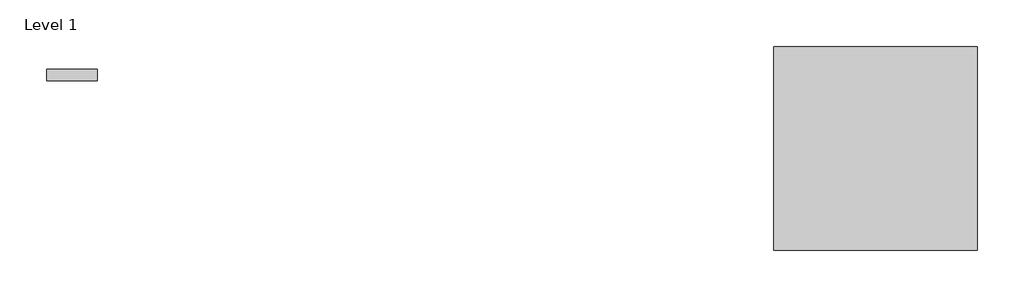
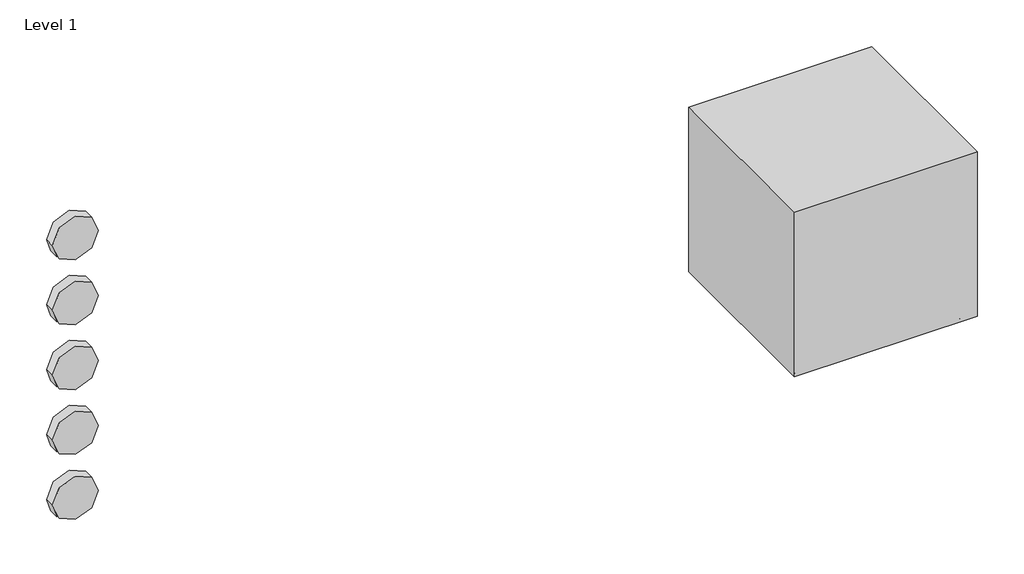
# One storey: 5 proxies, 1 furniture element.
"""IFC4 building model written with IfcOpenShell, lengths in millimetres."""

from ifc_helpers import new_model, si_unit, origin, place, context, project, spatial, transform, mapped, element, save
from components import materialmodel_materialmodel_aa49be07, furniture_fcb89289

model = new_model("IFC4")

# Units and contexts
model_context = context("Model", 3, world=origin())
ifc_project = project(units=[si_unit("LENGTHUNIT", "METRE", prefix="MILLI")], contexts=[model_context])

# Site, building, storey
site = spatial("IfcSite", under=ifc_project)
building = spatial("IfcBuilding", under=site)
storey = spatial("IfcBuildingStorey", under=building, Name="Level 1", Elevation=0.0)

# Proxies
placement = place(None, origin())
materialmodel_materialmodel_shape = materialmodel_materialmodel_aa49be07(model_context)
element("IfcBuildingElementProxy", 1, Name="MaterialModel : MaterialModel", ObjectType="MaterialModel : MaterialModel", at=placement, inside=storey, context=model_context, shape_type="MappedRepresentation", body=[
    mapped(materialmodel_materialmodel_shape, transform((-4168.3714612, 3483.5454579, 600.0), x_axis=(1.0, 0.0, 0.0), y_axis=(0.0, 1.0, 0.0), z_axis=(0.0, 0.0, 1.0))),
])
element("IfcBuildingElementProxy", 2, Name="MaterialModel : MaterialModel", ObjectType="MaterialModel : MaterialModel", at=placement, inside=storey, context=model_context, shape_type="MappedRepresentation", body=[
    mapped(materialmodel_materialmodel_shape, transform((-4168.3714612, 3483.5454579, 450.0), x_axis=(1.0, 0.0, 0.0), y_axis=(0.0, 1.0, 0.0), z_axis=(0.0, 0.0, 1.0))),
])
element("IfcBuildingElementProxy", 3, Name="MaterialModel : MaterialModel", ObjectType="MaterialModel : MaterialModel", at=placement, inside=storey, context=model_context, shape_type="MappedRepresentation", body=[
    mapped(materialmodel_materialmodel_shape, transform((-4168.3714612, 3483.5454579, 300.0), x_axis=(1.0, 0.0, 0.0), y_axis=(0.0, 1.0, 0.0), z_axis=(0.0, 0.0, 1.0))),
])
element("IfcBuildingElementProxy", 4, Name="MaterialModel : MaterialModel", ObjectType="MaterialModel : MaterialModel", at=placement, inside=storey, context=model_context, shape_type="MappedRepresentation", body=[
    mapped(materialmodel_materialmodel_shape, transform((-4168.3714612, 3483.5454579, 150.0), x_axis=(1.0, 0.0, 0.0), y_axis=(0.0, 1.0, 0.0), z_axis=(0.0, 0.0, 1.0))),
])
element("IfcBuildingElementProxy", 5, Name="MaterialModel : MaterialModel", ObjectType="MaterialModel : MaterialModel", at=placement, inside=storey, context=model_context, shape_type="MappedRepresentation", body=[
    mapped(materialmodel_materialmodel_shape, transform((-4168.3714612, 3483.5454579, 0.0), x_axis=(1.0, 0.0, 0.0), y_axis=(0.0, 1.0, 0.0), z_axis=(0.0, 0.0, 1.0))),
])

# Furniture
furniture_shape = furniture_fcb89289(model_context)
element("IfcFurniture", 6, ObjectType="Audo Copenhagen - Plinth - Cubic : Audo Copenhagen - Plinth - Cubic", at=placement, inside=storey, context=model_context, shape_type="MappedRepresentation", body=[
    mapped(furniture_shape, transform((-2590.4649448, 3339.4670228, 0.0), x_axis=(1.0, 0.0, 0.0), y_axis=(0.0, 1.0, 0.0), z_axis=(0.0, 0.0, 1.0))),
])

save(model, "model.ifc")
